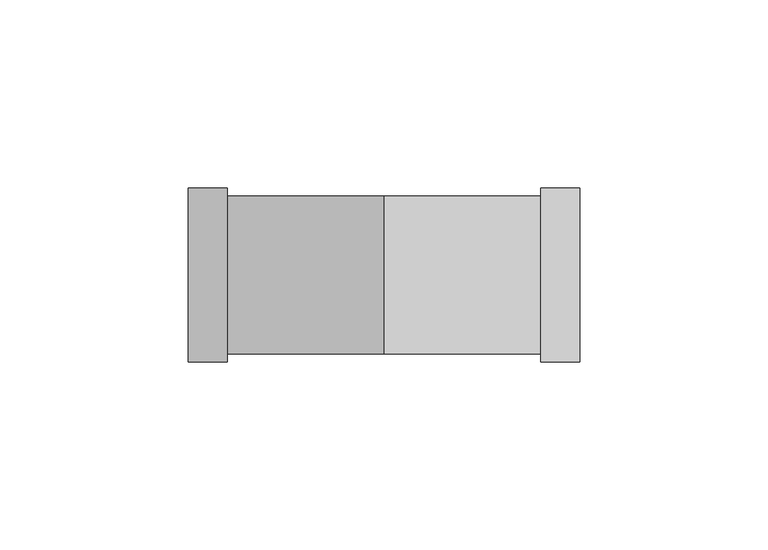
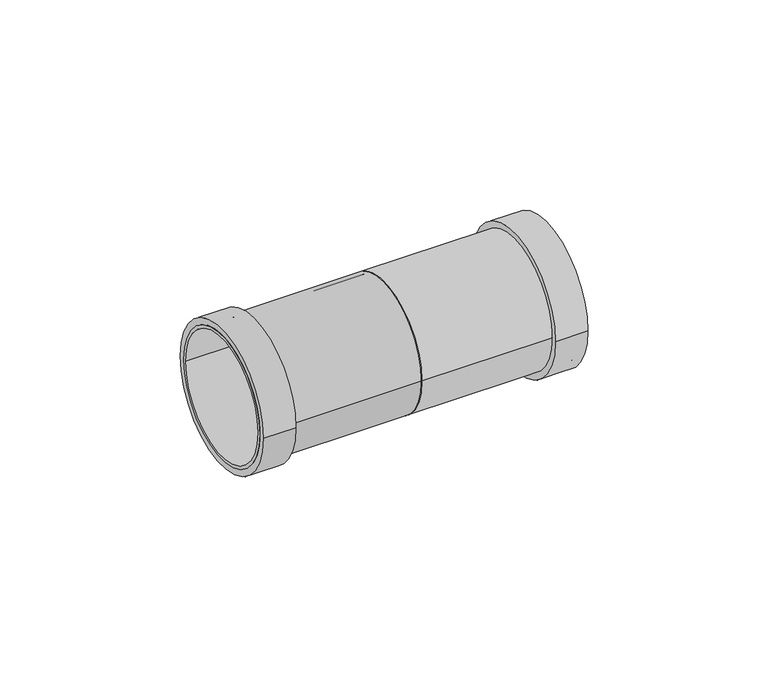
"""IFC4 building model written with IfcOpenShell, lengths in millimetres: pipe fitting geometry, Superdrain HTU-coupler : Superdrain HTU-coupler."""

import ifcopenshell
import ifcopenshell.guid

model = None  # the IFC model being written
_history = None  # IfcOwnerHistory: only IFC2X3 demands one
_inside = {}  # id of a spatial element -> (the spatial element, [elements in it])
_under = {}  # id of a project, library or spatial element -> (it, [spatial elements below it])
_declared = {}  # id of a project -> (the project, [libraries it declares])
_typed = {}  # id of a type object -> (the type object, [elements of that type])
_made_of = {}  # id of a material, layer set ... -> (it, [elements and type objects made of it])


def new_model(schema):
    """Start an empty IFC model of exactly this schema.

    Asked for "IFC4X3", IfcOpenShell would pick the latest addendum, in which some entities
    have other attributes; the version numbers below select the first issue.
    IFC2X3 requires an IfcOwnerHistory on every rooted entity: one is made here for all.
    """
    global model, _history
    if schema == "IFC4X3":
        model = ifcopenshell.file(schema_version=(4, 3, 0, 0))
    else:
        model = ifcopenshell.file(schema=schema)
    _inside.clear()
    _under.clear()
    _declared.clear()
    _typed.clear()
    _made_of.clear()
    _history = None
    if model.schema == "IFC2X3":
        org = make("IfcOrganization", Name="unknown")
        user = make(
            "IfcPersonAndOrganization",
            ThePerson=make("IfcPerson", FamilyName="unknown"),
            TheOrganization=org,
        )
        app = make(
            "IfcApplication",
            ApplicationDeveloper=org,
            Version="unknown",
            ApplicationFullName="unknown",
            ApplicationIdentifier="unknown",
        )
        _history = make(
            "IfcOwnerHistory",
            OwningUser=user,
            OwningApplication=app,
            ChangeAction="ADDED",
            CreationDate=0,
        )
    return model


def make(cls, **values):
    """One entity of the class cls with the attributes given. An attribute that is None is left unset."""
    return model.create_entity(
        cls, **{name: value for name, value in values.items() if value is not None}
    )


def rooted(cls, **values):
    """An entity with a GlobalId (a new one), such as an element, a storey or a relation."""
    return make(cls, GlobalId=ifcopenshell.guid.new(), OwnerHistory=_history, **values)


def si_unit(unit_type, name, prefix=None):
    """IfcSIUnit, for example si_unit("LENGTHUNIT", "METRE", prefix="MILLI")."""
    return make("IfcSIUnit", UnitType=unit_type, Prefix=prefix, Name=name)


def assignment(units):
    """IfcUnitAssignment: the units of a project."""
    return None if units is None else make("IfcUnitAssignment", Units=units)


def point(xyz):
    """IfcCartesianPoint."""
    return None if xyz is None else make("IfcCartesianPoint", Coordinates=xyz)


def direction(xyz):
    """IfcDirection."""
    return None if xyz is None else make("IfcDirection", DirectionRatios=xyz)


def frame(location, z_axis=None, x_axis=None):
    """IfcAxis2Placement3D, a coordinate frame: its origin and axes. An axis left out is left unset."""
    return make(
        "IfcAxis2Placement3D",
        Location=point(location),
        Axis=direction(z_axis),
        RefDirection=direction(x_axis),
    )


def frame_2d(location, x_axis=None):
    """IfcAxis2Placement2D, a coordinate frame in the plane: its origin and x axis."""
    return make(
        "IfcAxis2Placement2D", Location=point(location), RefDirection=direction(x_axis)
    )


def origin():
    """The frame at (0, 0, 0) with its axes left unset."""
    return frame((0.0, 0.0, 0.0))


def origin_2d():
    """The frame at (0, 0) in the plane with its x axis left unset."""
    return frame_2d((0.0, 0.0))


def place(relative_to, where):
    """IfcLocalPlacement: puts the frame where relative to a parent placement (None: the world)."""
    return make(
        "IfcLocalPlacement", PlacementRelTo=relative_to, RelativePlacement=where
    )


def context(
    kind, dimensions, precision=None, world=None, true_north=None, identifier=None
):
    """IfcGeometricRepresentationContext, for example the 3D "Model" context."""
    return make(
        "IfcGeometricRepresentationContext",
        ContextIdentifier=identifier,
        ContextType=kind,
        CoordinateSpaceDimension=dimensions,
        Precision=precision,
        WorldCoordinateSystem=world,
        TrueNorth=true_north,
    )


def project(units=None, contexts=None):
    """IfcProject with its units and contexts."""
    return rooted(
        "IfcProject",
        Name="project",
        RepresentationContexts=contexts,
        UnitsInContext=assignment(units),
    )


def spatial(cls, under=None, at=None, **own):
    """A site, building, storey or space (cls), placed at a placement, below another one or the project."""
    s = rooted(cls, ObjectPlacement=at, **own)
    if under is not None:
        _under.setdefault(under.id(), (under, []))[1].append(s)
    return s


def circle_curve(where, radius):
    """IfcCircle in the frame where."""
    return make("IfcCircle", Position=where, Radius=radius)


def trimmed(basis, trim1, trim2, sense, master):
    """IfcTrimmedCurve: the piece of a basis curve between two trims."""
    return make(
        "IfcTrimmedCurve",
        BasisCurve=basis,
        Trim1=trim1,
        Trim2=trim2,
        SenseAgreement=sense,
        MasterRepresentation=master,
    )


def segment(curve, same_sense, transition):
    """IfcCompositeCurveSegment."""
    return make(
        "IfcCompositeCurveSegment",
        Transition=transition,
        SameSense=same_sense,
        ParentCurve=curve,
    )


def composite_curve(segments, self_intersect=None):
    """IfcCompositeCurve: segments joined end to end."""
    return make("IfcCompositeCurve", Segments=segments, SelfIntersect=self_intersect)


def outline(outer, holes=None, kind="AREA"):
    """IfcArbitraryClosedProfileDef: a profile drawn as a closed curve; with holes, ...WithVoids."""
    if holes is None:
        return make("IfcArbitraryClosedProfileDef", ProfileType=kind, OuterCurve=outer)
    return make(
        "IfcArbitraryProfileDefWithVoids",
        ProfileType=kind,
        OuterCurve=outer,
        InnerCurves=holes,
    )


def extrude(swept, where, along, depth):
    """IfcExtrudedAreaSolid: the profile swept, set in the frame where, extruded along a direction by depth."""
    return make(
        "IfcExtrudedAreaSolid",
        SweptArea=swept,
        Position=where,
        ExtrudedDirection=direction(along),
        Depth=depth,
    )


def shape(context_of_items, identifier, shape_type, items):
    """IfcShapeRepresentation: the items that make up one representation, for example the "Body"."""
    return make(
        "IfcShapeRepresentation",
        ContextOfItems=context_of_items,
        RepresentationIdentifier=identifier,
        RepresentationType=shape_type,
        Items=items,
    )


def source(mapping_origin, context_of_items, identifier, shape_type, items):
    """IfcRepresentationMap: a shape defined once, which mapped items show again and again."""
    return make(
        "IfcRepresentationMap",
        MappingOrigin=mapping_origin,
        MappedRepresentation=shape(context_of_items, identifier, shape_type, items),
    )


def transform(
    local_origin,
    x_axis=None,
    y_axis=None,
    z_axis=None,
    scale=None,
    scale2=None,
    scale3=None,
    uniform=True,
):
    """IfcCartesianTransformationOperator3D, or its non-uniform kind. x_axis, y_axis, z_axis: its Axis1, 2, 3."""
    if uniform:
        return make(
            "IfcCartesianTransformationOperator3D",
            Axis1=direction(x_axis),
            Axis2=direction(y_axis),
            LocalOrigin=point(local_origin),
            Scale=scale,
            Axis3=direction(z_axis),
        )
    return make(
        "IfcCartesianTransformationOperator3DnonUniform",
        Axis1=direction(x_axis),
        Axis2=direction(y_axis),
        LocalOrigin=point(local_origin),
        Scale=scale,
        Axis3=direction(z_axis),
        Scale2=scale2,
        Scale3=scale3,
    )


def mapped(mapping_source, mapping_target):
    """IfcMappedItem: shows the shape of a source again, moved by a transform."""
    return make(
        "IfcMappedItem", MappingSource=mapping_source, MappingTarget=mapping_target
    )


def made_of(thing, what):
    """Note that an element or type object is made of a material, layer set ...; save() writes the relation."""
    if what is not None:
        _made_of.setdefault(what.id(), (what, []))[1].append(thing)
    return thing


def element(
    cls,
    number,
    at=None,
    inside=None,
    cuts=None,
    type_object=None,
    material=None,
    context=None,
    identifier="Body",
    shape_type=None,
    held_by="IfcProductDefinitionShape",
    body=None,
    shapes=None,
    **own,
):
    """One element of the class cls, such as IfcWall. Its Tag is "e" and its number.

    at: its placement. inside: the storey or other place that contains it. cuts: it is an
    opening in that element (IfcRelVoidsElement). A single representation is given by context,
    identifier, shape_type and body (its items); several are given by shapes. held_by: the class
    of the entity that holds the representations. save() writes the other relations.
    """
    e = rooted(cls, Tag="e%d" % number, ObjectPlacement=at, **own)
    if body is not None:
        shapes = [shape(context, identifier, shape_type, body)]
    if shapes is not None:
        e.Representation = make(held_by, Representations=shapes)
    if inside is not None:
        _inside.setdefault(inside.id(), (inside, []))[1].append(e)
    if cuts is not None:
        rooted(
            "IfcRelVoidsElement", RelatingBuildingElement=cuts, RelatedOpeningElement=e
        )
    if type_object is not None:
        _typed.setdefault(type_object.id(), (type_object, []))[1].append(e)
    return made_of(e, material)


def aggregate(whole, parts):
    """IfcRelAggregates: a whole, such as a stair, and the parts it consists of."""
    return rooted("IfcRelAggregates", RelatingObject=whole, RelatedObjects=parts)


def save(model, path):
    """Write the relations noted so far, then the file.

    IfcRelAggregates (storeys below a building ...), IfcRelContainedInSpatialStructure (elements
    in a storey), IfcRelDefinesByType, IfcRelAssociatesMaterial and IfcRelDeclares: one each for
    every whole, place, type object, material and project.
    """
    for whole, parts in _under.values():
        aggregate(whole, parts)
    for where, things in _inside.values():
        rooted(
            "IfcRelContainedInSpatialStructure",
            RelatedElements=things,
            RelatingStructure=where,
        )
    for kind, things in _typed.values():
        rooted("IfcRelDefinesByType", RelatedObjects=things, RelatingType=kind)
    for what, things in _made_of.values():
        rooted("IfcRelAssociatesMaterial", RelatedObjects=things, RelatingMaterial=what)
    for by, libraries in _declared.values():
        rooted("IfcRelDeclares", RelatingContext=by, RelatedDefinitions=libraries)
    model.write(path)


def pipe_fitting_3ae46ea1(model_context):
    return source(origin(), model_context, "Body", "SweptSolid", [
        extrude(outline(composite_curve([segment(trimmed(circle_curve(origin_2d(), 21.0), [point((21.0, 0.0))], [point((-21.0, 0.0))], False, "CARTESIAN"), True, "CONTINUOUS"), segment(trimmed(circle_curve(origin_2d(), 21.0), [point((-21.0, 0.0))], [point((21.0, 0.0))], False, "CARTESIAN"), True, "CONTINUOUS")], self_intersect=False), holes=[composite_curve([segment(trimmed(circle_curve(origin_2d(), 20.0), [point((20.0, 0.0))], [point((-20.0, 0.0))], True, "CARTESIAN"), True, "CONTINUOUS"), segment(trimmed(circle_curve(origin_2d(), 20.0), [point((-20.0, 0.0))], [point((20.0, 0.0))], True, "CARTESIAN"), True, "CONTINUOUS")], self_intersect=False)]), frame((0.0, 0.0, 0.0), z_axis=(1.0, 0.0, 0.0), x_axis=(0.0, 1.0, 0.0)), (0.0, 0.0, 1.0), 52.0),
        extrude(outline(composite_curve([segment(trimmed(circle_curve(origin_2d(), 23.1), [point((23.1, 0.0))], [point((-23.1, 0.0))], False, "CARTESIAN"), True, "CONTINUOUS"), segment(trimmed(circle_curve(origin_2d(), 23.1), [point((-23.1, 0.0))], [point((23.1, 0.0))], False, "CARTESIAN"), True, "CONTINUOUS")], self_intersect=False), holes=[composite_curve([segment(trimmed(circle_curve(origin_2d(), 20.0), [point((20.0, 0.0))], [point((-20.0, 0.0))], True, "CARTESIAN"), True, "CONTINUOUS"), segment(trimmed(circle_curve(origin_2d(), 20.0), [point((-20.0, 0.0))], [point((20.0, 0.0))], True, "CARTESIAN"), True, "CONTINUOUS")], self_intersect=False)]), frame((41.6, 0.0, 0.0), z_axis=(1.0, 0.0, 0.0), x_axis=(0.0, 1.0, 0.0)), (0.0, 0.0, 1.0), 10.4),
        extrude(outline(composite_curve([segment(trimmed(circle_curve(origin_2d(), 21.0), [point((-21.0, 0.0))], [point((21.0, 0.0))], False, "CARTESIAN"), True, "CONTINUOUS"), segment(trimmed(circle_curve(origin_2d(), 21.0), [point((21.0, 0.0))], [point((-21.0, 0.0))], False, "CARTESIAN"), True, "CONTINUOUS")], self_intersect=False), holes=[composite_curve([segment(trimmed(circle_curve(origin_2d(), 20.0), [point((-20.0, 0.0))], [point((20.0, 0.0))], True, "CARTESIAN"), True, "CONTINUOUS"), segment(trimmed(circle_curve(origin_2d(), 20.0), [point((20.0, 0.0))], [point((-20.0, 0.0))], True, "CARTESIAN"), True, "CONTINUOUS")], self_intersect=False)]), frame((-52.0, 0.0, 0.0), z_axis=(1.0, 0.0, 0.0), x_axis=(0.0, 1.0, 0.0)), (0.0, 0.0, 1.0), 52.0),
        extrude(outline(composite_curve([segment(trimmed(circle_curve(origin_2d(), 23.1), [point((-23.1, 0.0))], [point((23.1, 0.0))], False, "CARTESIAN"), True, "CONTINUOUS"), segment(trimmed(circle_curve(origin_2d(), 23.1), [point((23.1, 0.0))], [point((-23.1, 0.0))], False, "CARTESIAN"), True, "CONTINUOUS")], self_intersect=False), holes=[composite_curve([segment(trimmed(circle_curve(origin_2d(), 20.0), [point((-20.0, 0.0))], [point((20.0, 0.0))], True, "CARTESIAN"), True, "CONTINUOUS"), segment(trimmed(circle_curve(origin_2d(), 20.0), [point((20.0, 0.0))], [point((-20.0, 0.0))], True, "CARTESIAN"), True, "CONTINUOUS")], self_intersect=False)]), frame((-52.0, 0.0, 0.0), z_axis=(1.0, 0.0, 0.0), x_axis=(0.0, 1.0, 0.0)), (0.0, 0.0, 1.0), 10.4),
    ])


if __name__ == "__main__":
    model = new_model("IFC4")
    model_context = context("Model", 3, world=origin())
    ifc_project = project(units=[si_unit("LENGTHUNIT", "METRE", prefix="MILLI")], contexts=[model_context])
    site = spatial("IfcSite", under=ifc_project)
    building = spatial("IfcBuilding", under=site)
    placement = place(None, origin())
    pipe_fitting_shape = pipe_fitting_3ae46ea1(model_context)
    element("IfcPipeFitting", 1, ObjectType="Superdrain HTU-coupler : Superdrain HTU-coupler", at=placement, inside=building, context=model_context, shape_type="MappedRepresentation", body=[
        mapped(pipe_fitting_shape, transform((0.0, 0.0, 0.0), x_axis=(1.0, 0.0, 0.0), y_axis=(0.0, 1.0, 0.0), z_axis=(0.0, 0.0, 1.0))),
    ])
    save(model, "model.ifc")
